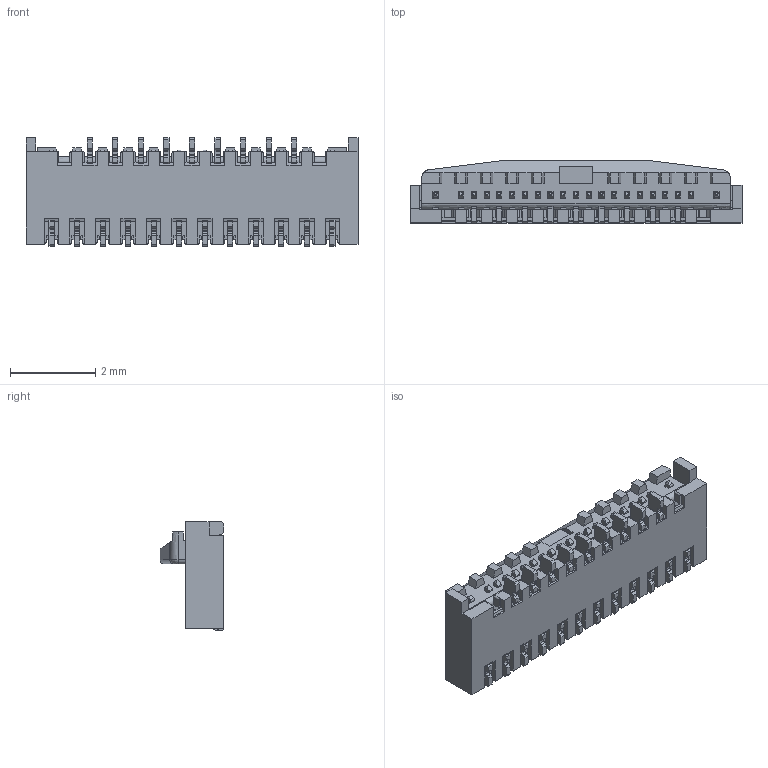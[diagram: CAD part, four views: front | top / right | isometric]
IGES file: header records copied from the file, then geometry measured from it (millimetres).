
Start section: SolidWorks IGES file using analytic representation for surfaces
Global section: file name: C:\3dwork\MINIFLEX3-BFN LK TYPE(中間ファイル作成用)_takei\20599-019ExC ASS'Y ACT OPEN IGES R0 Garmin.IGS; native system: SolidWorks 2011; preprocessor: SolidWorks 2011; author: kaihatsu-3dcad-9; date: 130822.111222; units: millimetre
Bounding box: 7.8 x 1.5 x 2.55 mm (x, y, z)
Surface area: 95.6 mm2 (no closed solid volume)
Topology: 0 solids, 0 shells, 2046 faces, 12729 edges, 12727 vertices
Faces by surface type: bspline 1730, revolution 316
